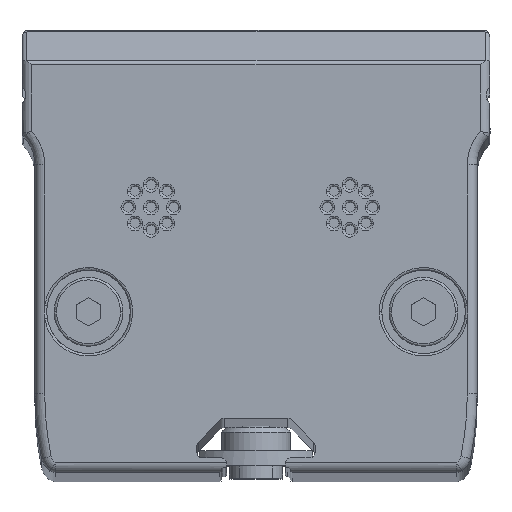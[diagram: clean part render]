
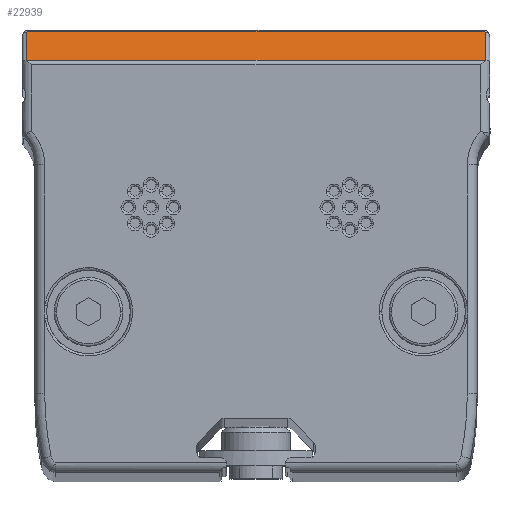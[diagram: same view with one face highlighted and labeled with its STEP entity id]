
A CAD part, top view. The second image highlights one B-rep face of the part: STEP entity #22939.
In plain terms, the highlighted planar face has unit normal (0, 0.858, 0.514).
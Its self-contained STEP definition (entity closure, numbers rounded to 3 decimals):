
#505 = ORIENTED_EDGE ( 'NONE', *, *, #6323, .T. ) ;
#1591 = DIRECTION ( 'NONE',  ( 0., -0.857, -0.514 ) ) ;
#2371 = CARTESIAN_POINT ( 'NONE',  ( 23.215, 22.429, 504.914 ) ) ;
#2425 = VERTEX_POINT ( 'NONE', #4994 ) ;
#3605 = PLANE ( 'NONE',  #8891 ) ;
#3718 = VERTEX_POINT ( 'NONE', #7404 ) ;
#3739 = EDGE_CURVE ( 'NONE', #3718, #5158, #5653, .T. ) ;
#4994 = CARTESIAN_POINT ( 'NONE',  ( 23.315, 22.329, 505.08 ) ) ;
#5158 = VERTEX_POINT ( 'NONE', #24555 ) ;
#5640 = FACE_OUTER_BOUND ( 'NONE', #25411, .T. ) ;
#5653 = LINE ( 'NONE', #15797, #22963 ) ;
#5804 = CARTESIAN_POINT ( 'NONE',  ( 23.315, 22.387, 504.983 ) ) ;
#6323 = EDGE_CURVE ( 'NONE', #25694, #18347, #14080, .T. ) ;
#6958 = CARTESIAN_POINT ( 'NONE',  ( -23.315, 19.287, 510.15 ) ) ;
#7404 = CARTESIAN_POINT ( 'NONE',  ( -23.315, 19.433, 509.907 ) ) ;
#7419 = ORIENTED_EDGE ( 'NONE', *, *, #18351, .T. ) ;
#8020 = EDGE_CURVE ( 'NONE', #5158, #2425, #11152, .T. ) ;
#8597 = CARTESIAN_POINT ( 'NONE',  ( 23.215, 22.429, 504.914 ) ) ;
#8891 = AXIS2_PLACEMENT_3D ( 'NONE', #23757, #1591, #15371 ) ;
#8917 = EDGE_CURVE ( 'NONE', #2425, #21563, #20743, .T. ) ;
#10615 = CARTESIAN_POINT ( 'NONE',  ( 23.215, 22.429, 504.914 ) ) ;
#11104 = VECTOR ( 'NONE', #26516, 1000. ) ;
#11152 = LINE ( 'NONE', #25764, #11898 ) ;
#11706 = CARTESIAN_POINT ( 'NONE',  ( 23.215, 22.429, 504.914 ) ) ;
#11898 = VECTOR ( 'NONE', #15082, 1000. ) ;
#12857 = ORIENTED_EDGE ( 'NONE', *, *, #20995, .T. ) ;
#14080 = LINE ( 'NONE', #16089, #11104 ) ;
#15082 = DIRECTION ( 'NONE',  ( 0., 0.514, -0.857 ) ) ;
#15371 = DIRECTION ( 'NONE',  ( 0., 0.514, -0.857 ) ) ;
#15797 = CARTESIAN_POINT ( 'NONE',  ( 23.82, 19.433, 509.907 ) ) ;
#16089 = CARTESIAN_POINT ( 'NONE',  ( -23.215, 22.429, 504.914 ) ) ;
#17235 = LINE ( 'NONE', #6958, #21699 ) ;
#17543 = DIRECTION ( 'NONE',  ( 1., 0., 0. ) ) ;
#17820 =( BOUNDED_CURVE ( )  B_SPLINE_CURVE ( 3, ( #24266, #17912, #24140, #24546 ),
 .UNSPECIFIED., .F., .F. ) 
 B_SPLINE_CURVE_WITH_KNOTS ( ( 4, 4 ),
 ( 0., 1.571 ),
 .UNSPECIFIED. ) 
 CURVE ( )  GEOMETRIC_REPRESENTATION_ITEM ( )  RATIONAL_B_SPLINE_CURVE ( ( 1., 0.805, 0.805, 1. ) ) 
 REPRESENTATION_ITEM ( '' )  );
#17912 = CARTESIAN_POINT ( 'NONE',  ( -23.274, 22.429, 504.914 ) ) ;
#18141 = ORIENTED_EDGE ( 'NONE', *, *, #8917, .T. ) ;
#18249 = ORIENTED_EDGE ( 'NONE', *, *, #3739, .T. ) ;
#18347 = VERTEX_POINT ( 'NONE', #20081 ) ;
#18351 = EDGE_CURVE ( 'NONE', #18347, #20486, #17820, .T. ) ;
#18940 = EDGE_CURVE ( 'NONE', #21563, #25694, #21778, .T. ) ;
#20006 = CARTESIAN_POINT ( 'NONE',  ( 23.315, 22.329, 505.08 ) ) ;
#20081 = CARTESIAN_POINT ( 'NONE',  ( -23.215, 22.429, 504.914 ) ) ;
#20486 = VERTEX_POINT ( 'NONE', #24329 ) ;
#20743 =( BOUNDED_CURVE ( )  B_SPLINE_CURVE ( 3, ( #20006, #5804, #21629, #23929 ),
 .UNSPECIFIED., .F., .F. ) 
 B_SPLINE_CURVE_WITH_KNOTS ( ( 4, 4 ),
 ( 4.712, 6.283 ),
 .UNSPECIFIED. ) 
 CURVE ( )  GEOMETRIC_REPRESENTATION_ITEM ( )  RATIONAL_B_SPLINE_CURVE ( ( 1., 0.805, 0.805, 1. ) ) 
 REPRESENTATION_ITEM ( '' )  );
#20995 = EDGE_CURVE ( 'NONE', #20486, #3718, #17235, .T. ) ;
#21281 = CARTESIAN_POINT ( 'NONE',  ( 23.215, 22.429, 504.914 ) ) ;
#21563 = VERTEX_POINT ( 'NONE', #25537 ) ;
#21629 = CARTESIAN_POINT ( 'NONE',  ( 23.274, 22.429, 504.914 ) ) ;
#21699 = VECTOR ( 'NONE', #23731, 1000. ) ;
#21778 =( BOUNDED_CURVE ( )  B_SPLINE_CURVE ( 3, ( #2371, #10615, #21281, #8597 ),
 .UNSPECIFIED., .F., .F. ) 
 B_SPLINE_CURVE_WITH_KNOTS ( ( 4, 4 ),
 ( 0., 0. ),
 .UNSPECIFIED. ) 
 CURVE ( )  GEOMETRIC_REPRESENTATION_ITEM ( )  RATIONAL_B_SPLINE_CURVE ( ( 1., 1., 1., 1. ) ) 
 REPRESENTATION_ITEM ( '' )  );
#22634 = ORIENTED_EDGE ( 'NONE', *, *, #8020, .T. ) ;
#22655 = ORIENTED_EDGE ( 'NONE', *, *, #18940, .T. ) ;
#22939 = ADVANCED_FACE ( 'NONE', ( #5640 ), #3605, .F. ) ;
#22963 = VECTOR ( 'NONE', #17543, 1000. ) ;
#23731 = DIRECTION ( 'NONE',  ( 0., -0.514, 0.857 ) ) ;
#23757 = CARTESIAN_POINT ( 'NONE',  ( 23.82, 19.287, 510.15 ) ) ;
#23929 = CARTESIAN_POINT ( 'NONE',  ( 23.215, 22.429, 504.914 ) ) ;
#24140 = CARTESIAN_POINT ( 'NONE',  ( -23.315, 22.387, 504.983 ) ) ;
#24266 = CARTESIAN_POINT ( 'NONE',  ( -23.215, 22.429, 504.914 ) ) ;
#24329 = CARTESIAN_POINT ( 'NONE',  ( -23.315, 22.329, 505.08 ) ) ;
#24546 = CARTESIAN_POINT ( 'NONE',  ( -23.315, 22.329, 505.08 ) ) ;
#24555 = CARTESIAN_POINT ( 'NONE',  ( 23.315, 19.433, 509.907 ) ) ;
#25411 = EDGE_LOOP ( 'NONE', ( #18249, #22634, #18141, #22655, #505, #7419, #12857 ) ) ;
#25537 = CARTESIAN_POINT ( 'NONE',  ( 23.215, 22.429, 504.914 ) ) ;
#25694 = VERTEX_POINT ( 'NONE', #11706 ) ;
#25764 = CARTESIAN_POINT ( 'NONE',  ( 23.315, 19.287, 510.15 ) ) ;
#26516 = DIRECTION ( 'NONE',  ( -1., 0., 0. ) ) ;
